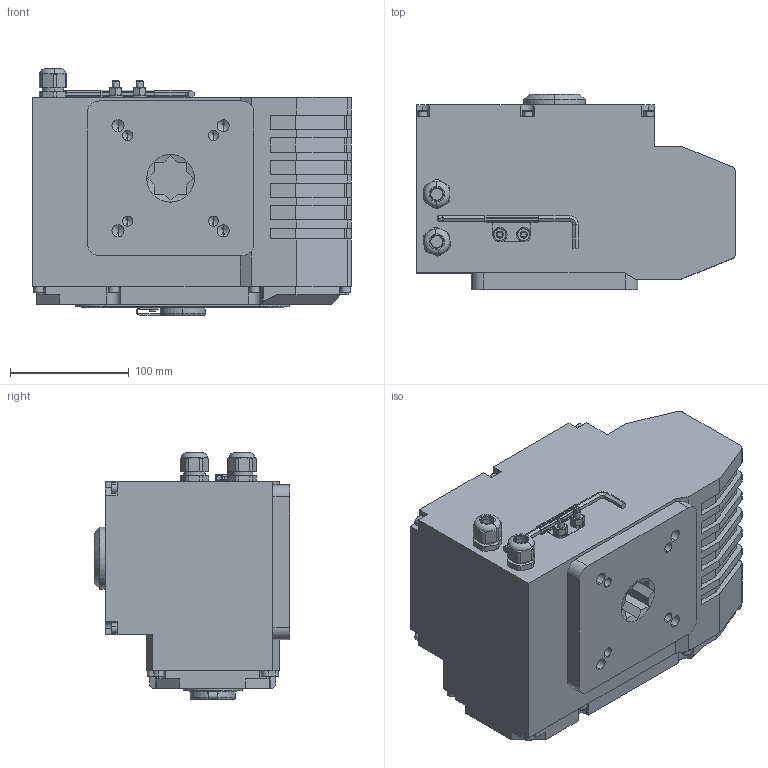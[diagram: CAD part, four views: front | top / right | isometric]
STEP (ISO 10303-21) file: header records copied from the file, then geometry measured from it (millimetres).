
FILE_DESCRIPTION (( 'STEP AP203' ), '1' );
FILE_NAME ('AOX060-100_3D.STEP', '2020-04-20T08:55:06', ( '' ), ( '' ), 'SwSTEP 2.0', 'SolidWorks 2017', '' );
FILE_SCHEMA (( 'CONFIG_CONTROL_DESIGN' ));
Length unit declared in the file: millimetre
Products named in the file (1): AOX060-100_3D
Bounding box: 268 x 164 x 207 mm (x, y, z)
Volume: 5902573 mm3; surface area: 245464.7 mm2
Topology: 1 solids, 4 shells, 806 faces, 2057 edges, 1266 vertices
Faces by surface type: plane 490, cylinder 169, cone 104, torus 43
Entity records: 24267 total; most frequent: CARTESIAN_POINT 4754, DIRECTION 4076, ORIENTED_EDGE 4018, EDGE_CURVE 2009, AXIS2_PLACEMENT_3D 1376, VECTOR 1324, LINE 1324, VERTEX_POINT 1266
